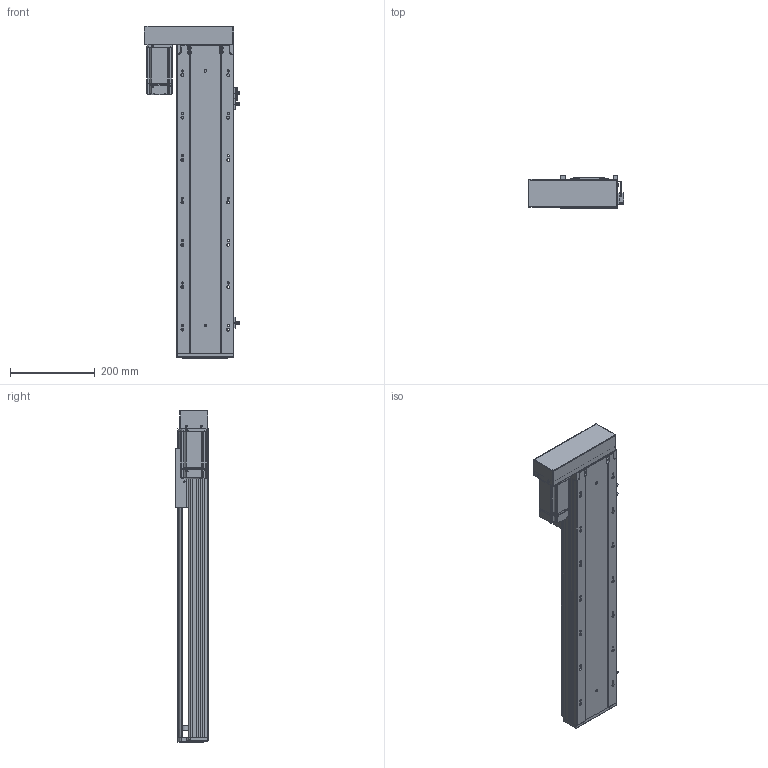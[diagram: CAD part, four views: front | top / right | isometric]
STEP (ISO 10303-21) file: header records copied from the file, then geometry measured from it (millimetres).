
FILE_DESCRIPTION (( 'STEP AP203' ), '1' );
FILE_NAME ('RY140-L1620-300-LK.SLDASM_500.step', '2021-02-22T02:46:26', ( '盈信电脑' ), ( '东莞市道滘镇水果街19号' ), 'SwSTEP 2.0', 'SolidWorks 2012', '' );
FILE_SCHEMA (( 'CONFIG_CONTROL_DESIGN' ));
Length unit declared in the file: millimetre
Products named in the file (14): RY140酘衵殏萇儂欶; 侂狟400W侜督萇儂; RY140-L1620-300-LK.SLDASM_500; 15; RY140转折电机端支撑座; RY120外置感应片(140共用）; RY140蛌殏萇儂假蚾啣; RY140綴裔啣; 覜茼ん672; 滅袉蝶18-24; 滅袉蝶18-10; RY140臏賑輸; RY140-300蛌殏倰第奻裔啣-LK_500; RY140-300蛌殏倰第菁釱-LK_500
Assembly tree (16 placements, depth 3):
  RY140-L1620-300-LK.SLDASM_500
    RY140-300蛌殏倰第菁釱-LK_500
    RY140臏賑輸
    RY140-300蛌殏倰第奻裔啣-LK_500
    RY140綴裔啣
    滅袉蝶18-24  x2
    滅袉蝶18-10
    覜茼ん672  x3
    RY120外置感应片(140共用）
    RY140转折电机端支撑座
    RY140蛌殏萇儂假蚾啣
    侂狟400W侜督萇儂
      15
    RY140酘衵殏萇儂欶
Bounding box: 225.2 x 78 x 783 mm (x, y, z)
Volume: 2804898.7 mm3; surface area: 1004604.7 mm2
Topology: 15 solids, 15 shells, 2267 faces, 6272 edges, 4028 vertices
Faces by surface type: plane 1174, cylinder 822, cone 178, bspline 93
Entity records: 71991 total; most frequent: CARTESIAN_POINT 17539, ORIENTED_EDGE 11280, DIRECTION 10633, EDGE_CURVE 5640, VERTEX_POINT 3696, LINE 3625, VECTOR 3625, AXIS2_PLACEMENT_3D 3504
